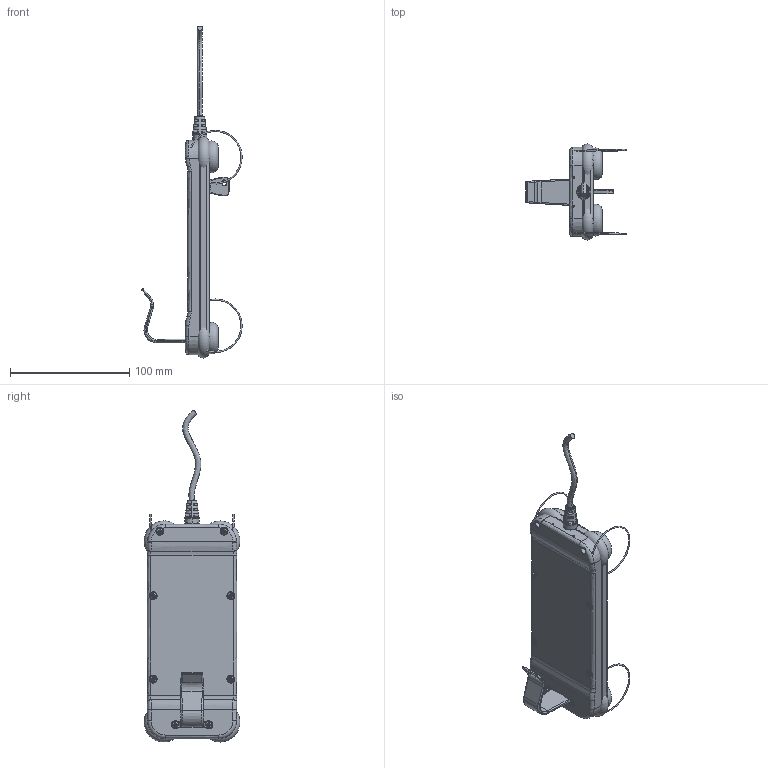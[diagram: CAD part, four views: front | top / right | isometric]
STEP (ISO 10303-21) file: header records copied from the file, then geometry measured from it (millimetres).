
FILE_DESCRIPTION((''),'2;1');
FILE_NAME('H2D_ASM','2014-06-03T',('user'),(''),'PRO/ENGINEER BY PARAMETRIC TECHNOLOGY CORPORATION, 2008090','PRO/ENGINEER BY PARAMETRIC TECHNOLOGY CORPORATION, 2008090','');
FILE_SCHEMA(('CONFIG_CONTROL_DESIGN'));
Products named in the file (1): H2D_ASM
Bounding box: 84.04 x 80.27 x 278.26 mm (x, y, z)
Surface area: 135975.3 mm2 (no closed solid volume)
Topology: 0 solids, 0 shells, 1693 faces, 9326 edges, 9230 vertices
Faces by surface type: bspline 1527, torus 153, sphere 13
Entity records: 153021 total; most frequent: CARTESIAN_POINT 75178, DIRECTION 11742, TRIMMED_CURVE 9794, DEFINITIONAL_REPRESENTATION 9145, PCURVE 9145, COMPOSITE_CURVE_SEGMENT 9145, VECTOR 8178, LINE 8178
